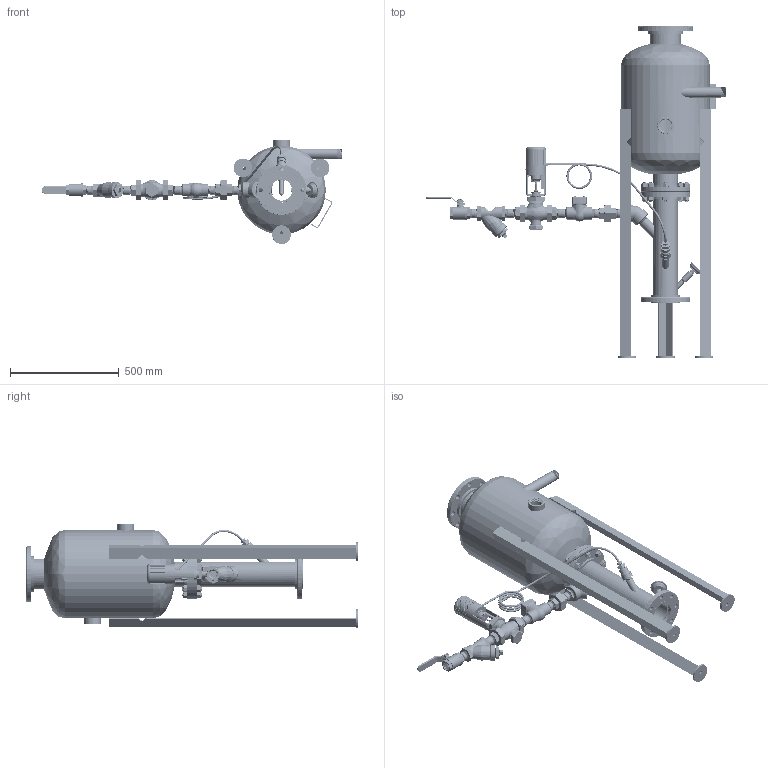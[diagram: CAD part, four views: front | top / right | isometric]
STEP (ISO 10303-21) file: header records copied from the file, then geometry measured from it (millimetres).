
FILE_DESCRIPTION(/* description */ (''),/* implementation_level */ '2;1');
FILE_NAME(/* name */ 'N:\TONY FISCHER\SUPERIOR PRODUCTS\(SBDS) PRODUCT LINE\01_R&D ASSEMBLIES\1630-1554RD\SBDS-1630-1554-AC_5-6-21.stp',/* time_stamp */ '2021-05-06T10:49:09-05:00',/* author */ ('Afischer'),/* organization */ (''),/* preprocessor_version */ 'ST-DEVELOPER v18.1',/* originating_system */ 'Autodesk Inventor 2022',/* authorisation */ '');
FILE_SCHEMA (('AUTOMOTIVE_DESIGN { 1 0 10303 214 3 1 1 }'));
Products named in the file (37): SBDS-1630-1554-AC; 634-150-150_D; 634-150-150_A; 908-006-127; 908-028-010; 910-053-030; 908-039-006; 006-050-003; 910-053-030_1; 006-040-001; 760-800-001; 004-003-009; 634-000-001; 635-150-150_C; 006-040-001_1; 908-039-005; 908-006-106; 908-006-213; 908-006-100; 904-004-140; 904-004-717; 904-004-717N; 636-150-125_G; 908-024-008; 908-035-021; 908-014-007; 905-026-314; 905-078-522; 908-007-004; 905-045-001; 908-027-004; 908-007-003; 905-055-014; 908-033-011; 908-032-001; 902-002-646; PROBE_1630-1554_A
Assembly tree (68 placements, depth 3):
  SBDS-1630-1554-AC
    634-150-150_D
      634-150-150_A
      908-006-127
      908-028-010  x2
      910-053-030
      908-039-006
      006-050-003
      910-053-030_1
      006-040-001
      908-039-005
      760-800-001
      004-003-009  x3
      634-000-001  x3
    635-150-150_C
      006-040-001_1
      908-039-005  x2
      908-006-106
      908-006-213
      908-006-100
      904-004-140
      904-004-717  x8
      904-004-717N  x16
    636-150-125_G
      908-024-008
      908-035-021
      908-007-003  x3
      908-014-007
      905-026-314
      908-007-004  x2
      905-078-522
      905-045-001
      908-027-004
      905-055-014
      908-033-011
      908-032-001
      902-002-646
      PROBE_1630-1554_A
Bounding box: 1381.11 x 1524 x 477.7 mm (x, y, z)
Volume: 18013826.2 mm3; surface area: 4647353.6 mm2
Topology: 82 solids, 82 shells, 4045 faces, 10620 edges, 6814 vertices
Faces by surface type: cylinder 1633, cone 1098, plane 867, bspline 370, torus 63, sphere 14
Full cylindrical faces by diameter (mm): 6.35 x8, 6.426 x1, 6.731 x4, 7.544 x1, 9.246 x1, 9.525 x4, 12.875 x400, 13.097 x4, 13.868 x1, 14.494 x22, 15.286 x23, 15.337 x2, 15.875 x428, 16.51 x1, 18.135 x1, 19.05 x27, 20.574 x1, 21.336 x2, 22.225 x8, 23.026 x1, 23.114 x1, 24.308 x1, 25.4 x2, 26.67 x1, 27.432 x1, 28.575 x1, 30.623 x1, 31.979 x1, 32.461 x5, 33.401 x2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
Entity records: 350280 total; most frequent: CARTESIAN_POINT 287741, ORIENTED_EDGE 13226, DIRECTION 11213, EDGE_CURVE 6613, AXIS2_PLACEMENT_3D 4443, VERTEX_POINT 4218, EDGE_LOOP 2785, FACE_OUTER_BOUND 2577
